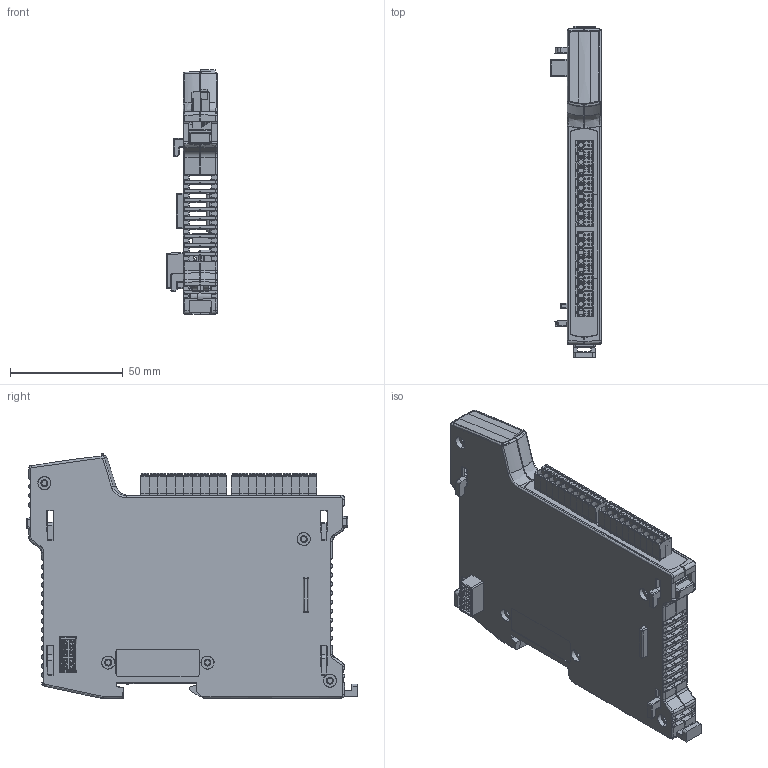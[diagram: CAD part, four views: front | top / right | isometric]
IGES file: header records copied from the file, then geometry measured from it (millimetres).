
Global section: file name: C:\tmt_php\downloads\CAD_Data\Flexslice Assembly Solid P371-372-376-377\Flexslice Assembly Solid P371-372-376-377.igs; native system: Rhinoceros ( Nov  7 2018 ); preprocessor: Trout Lake IGES 012 Nov  7 2018; date: 181210.142554; units: millimetre
Bounding box: 22.47 x 146.72 x 108.56 mm (x, y, z)
Surface area: 100937.8 mm2 (no closed solid volume)
Topology: 0 solids, 0 shells, 7575 faces, 49799 edges, 49543 vertices
Faces by surface type: bspline 7575
